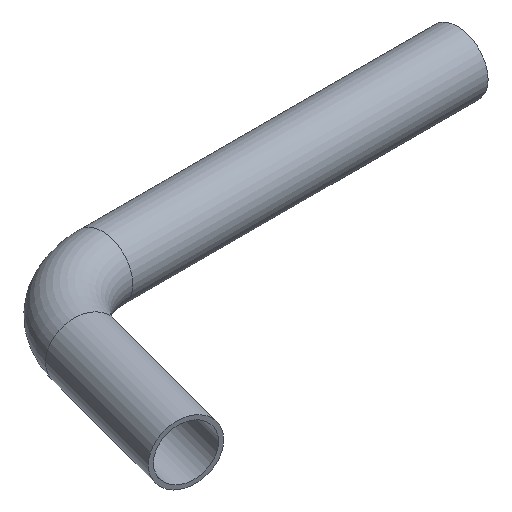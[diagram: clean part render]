
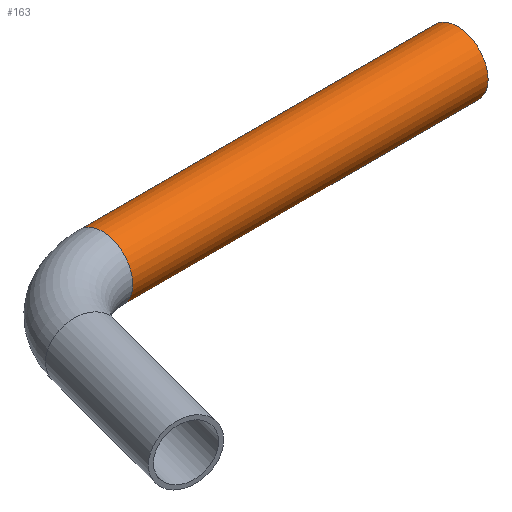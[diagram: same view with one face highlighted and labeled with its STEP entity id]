
A CAD part, isometric view. The second image highlights one B-rep face of the part: STEP entity #163.
In plain terms, the highlighted cylindrical face has radius 11 mm (diameter 22 mm), a full revolution.
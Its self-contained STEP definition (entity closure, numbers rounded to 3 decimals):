
#136=CARTESIAN_POINT('',(0.,30.,0.0));
#137=DIRECTION('',(1.0,0.0,0.0));
#138=DIRECTION('',(0.0,-1.0,0.0));
#139=AXIS2_PLACEMENT_3D('',#136,#137,#138);
#140=CYLINDRICAL_SURFACE('',#139,11.0);
#141=CARTESIAN_POINT('',(126.98,41.,0.));
#142=VERTEX_POINT('',#141);
#143=CARTESIAN_POINT('',(126.98,30.,0.0));
#144=DIRECTION('',(-1.0,0.0,0.0));
#145=DIRECTION('',(0.0,-1.0,0.0));
#146=AXIS2_PLACEMENT_3D('',#143,#144,#145);
#147=CIRCLE('',#146,11.0);
#148=EDGE_CURVE('',#142,#142,#147,.T.);
#149=ORIENTED_EDGE('',*,*,#148,.T.);
#150=EDGE_LOOP('',(#149));
#151=FACE_OUTER_BOUND('',#150,.T.);
#152=CARTESIAN_POINT('',(0.,41.,0.));
#153=VERTEX_POINT('',#152);
#154=CARTESIAN_POINT('',(0.,30.,0.0));
#155=DIRECTION('',(-1.0,0.0,0.0));
#156=DIRECTION('',(0.0,-1.0,0.0));
#157=AXIS2_PLACEMENT_3D('',#154,#155,#156);
#158=CIRCLE('',#157,11.0);
#159=EDGE_CURVE('',#153,#153,#158,.T.);
#160=ORIENTED_EDGE('',*,*,#159,.F.);
#161=EDGE_LOOP('',(#160));
#162=FACE_BOUND('',#161,.T.);
#163=ADVANCED_FACE('',(#151,#162),#140,.T.);
